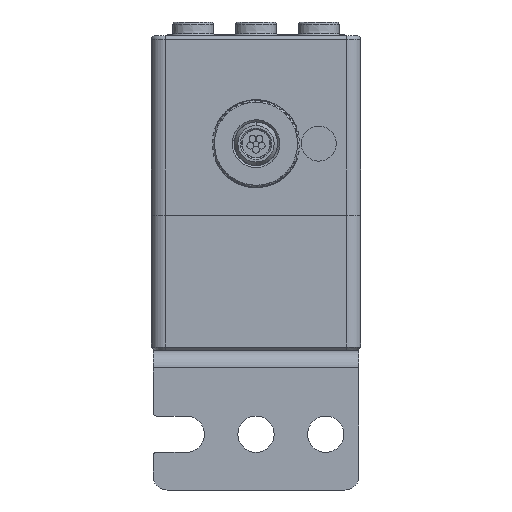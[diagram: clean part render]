
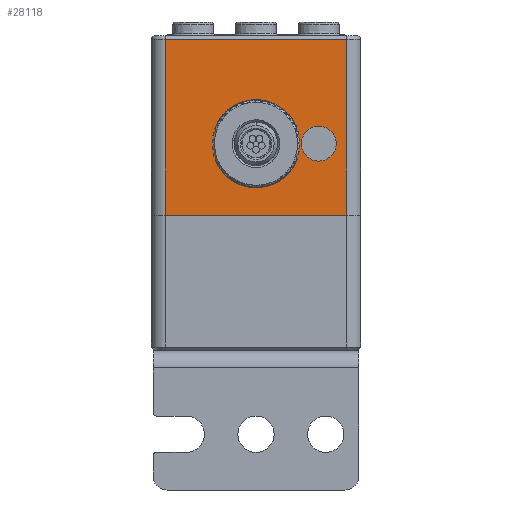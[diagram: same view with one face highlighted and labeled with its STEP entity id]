
A CAD part, front view. The second image highlights one B-rep face of the part: STEP entity #28118.
In plain terms, the highlighted planar face has unit normal (0, -1, 0).
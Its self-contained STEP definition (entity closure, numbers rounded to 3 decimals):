
#1414=DIRECTION('',(1.,0.,0.));
#1415=VECTOR('',#1414,26.);
#1416=CARTESIAN_POINT('',(-13.,-15.,4.5));
#1417=LINE('',#1416,#1415);
#1418=DIRECTION('',(0.,0.,-1.));
#1419=VECTOR('',#1418,25.2);
#1420=CARTESIAN_POINT('',(-13.,-15.,29.7));
#1421=LINE('',#1420,#1419);
#1422=DIRECTION('',(1.,0.,0.));
#1423=VECTOR('',#1422,26.);
#1424=CARTESIAN_POINT('',(-13.,-15.,29.7));
#1425=LINE('',#1424,#1423);
#1426=DIRECTION('',(0.,0.,-1.));
#1427=VECTOR('',#1426,25.2);
#1428=CARTESIAN_POINT('',(13.,-15.,29.7));
#1429=LINE('',#1428,#1427);
#1430=CARTESIAN_POINT('',(0.,-15.,14.75));
#1431=DIRECTION('',(0.,-1.,0.));
#1432=DIRECTION('',(-0.898,0.,-0.44));
#1433=AXIS2_PLACEMENT_3D('',#1430,#1431,#1432);
#1435=DIRECTION('',(-0.017,0.,-1.));
#1436=VECTOR('',#1435,2.35);
#1437=CARTESIAN_POINT('',(5.8,-15.,14.75));
#1438=LINE('',#1437,#1436);
#1439=DIRECTION('',(0.017,0.,-1.));
#1440=VECTOR('',#1439,2.35);
#1441=CARTESIAN_POINT('',(5.759,-15.,17.1));
#1442=LINE('',#1441,#1440);
#1443=CARTESIAN_POINT('',(0.,-15.,14.75));
#1444=DIRECTION('',(0.,-1.,0.));
#1445=DIRECTION('',(0.898,0.,0.44));
#1446=AXIS2_PLACEMENT_3D('',#1443,#1444,#1445);
#1448=DIRECTION('',(0.017,0.,1.));
#1449=VECTOR('',#1448,2.35);
#1450=CARTESIAN_POINT('',(-5.8,-15.,14.75));
#1451=LINE('',#1450,#1449);
#1452=DIRECTION('',(-0.017,0.,1.));
#1453=VECTOR('',#1452,2.35);
#1454=CARTESIAN_POINT('',(-5.759,-15.,12.4));
#1455=LINE('',#1454,#1453);
#1456=CARTESIAN_POINT('',(9.,-15.,14.75));
#1457=DIRECTION('',(0.,1.,0.));
#1458=DIRECTION('',(-1.,0.,0.));
#1459=AXIS2_PLACEMENT_3D('',#1456,#1457,#1458);
#1461=CARTESIAN_POINT('',(9.,-15.,14.75));
#1462=DIRECTION('',(0.,1.,0.));
#1463=DIRECTION('',(1.,0.,0.));
#1464=AXIS2_PLACEMENT_3D('',#1461,#1462,#1463);
#7093=CARTESIAN_POINT('',(-4.759,-15.,17.083));
#7094=DIRECTION('',(0.,1.,0.));
#7095=DIRECTION('',(-1.,0.,0.017));
#7096=AXIS2_PLACEMENT_3D('',#7093,#7094,#7095);
#7120=CARTESIAN_POINT('',(-4.759,-15.,12.417));
#7121=DIRECTION('',(0.,1.,0.));
#7122=DIRECTION('',(-0.898,0.,-0.44));
#7123=AXIS2_PLACEMENT_3D('',#7120,#7121,#7122);
#8238=CARTESIAN_POINT('',(4.759,-15.,17.083));
#8239=DIRECTION('',(0.,1.,0.));
#8240=DIRECTION('',(0.898,0.,0.44));
#8241=AXIS2_PLACEMENT_3D('',#8238,#8239,#8240);
#8263=CARTESIAN_POINT('',(4.759,-15.,12.417));
#8264=DIRECTION('',(0.,1.,0.));
#8265=DIRECTION('',(1.,0.,-0.017));
#8266=AXIS2_PLACEMENT_3D('',#8263,#8264,#8265);
#22908=CARTESIAN_POINT('',(-13.,-15.,4.5));
#22909=CARTESIAN_POINT('',(13.,-15.,4.5));
#22910=VERTEX_POINT('',#22908);
#22911=VERTEX_POINT('',#22909);
#22932=CARTESIAN_POINT('',(13.,-15.,29.7));
#22933=VERTEX_POINT('',#22932);
#22938=CARTESIAN_POINT('',(-13.,-15.,29.7));
#22939=VERTEX_POINT('',#22938);
#23028=CARTESIAN_POINT('',(6.643,-15.,14.75));
#23029=CARTESIAN_POINT('',(11.357,-15.,14.75));
#23030=VERTEX_POINT('',#23028);
#23031=VERTEX_POINT('',#23029);
#23240=CARTESIAN_POINT('',(5.8,-15.,14.75));
#23241=VERTEX_POINT('',#23240);
#23251=CARTESIAN_POINT('',(5.759,-15.,17.1));
#23252=VERTEX_POINT('',#23251);
#23253=CARTESIAN_POINT('',(5.759,-15.,12.4));
#23254=VERTEX_POINT('',#23253);
#23255=CARTESIAN_POINT('',(5.657,-15.,17.523));
#23256=VERTEX_POINT('',#23255);
#23257=CARTESIAN_POINT('',(5.657,-15.,11.977));
#23258=VERTEX_POINT('',#23257);
#23266=CARTESIAN_POINT('',(-5.657,-15.,17.523));
#23267=VERTEX_POINT('',#23266);
#23268=CARTESIAN_POINT('',(-5.657,-15.,11.977));
#23269=VERTEX_POINT('',#23268);
#23279=CARTESIAN_POINT('',(-5.759,-15.,12.4));
#23280=CARTESIAN_POINT('',(-5.8,-15.,14.75));
#23281=VERTEX_POINT('',#23279);
#23282=VERTEX_POINT('',#23280);
#23283=CARTESIAN_POINT('',(-5.759,-15.,17.1));
#23284=VERTEX_POINT('',#23283);
#28077=CARTESIAN_POINT('',(-15.,-15.,2.9));
#28078=DIRECTION('',(0.,-1.,0.));
#28079=DIRECTION('',(1.,0.,0.));
#28080=AXIS2_PLACEMENT_3D('',#28077,#28078,#28079);
#28081=PLANE('',#28080);
#28082=ORIENTED_EDGE('',*,*,#26762,.F.);
#28084=ORIENTED_EDGE('',*,*,#28083,.F.);
#28086=ORIENTED_EDGE('',*,*,#28085,.T.);
#28087=ORIENTED_EDGE('',*,*,#28069,.T.);
#28088=EDGE_LOOP('',(#28082,#28084,#28086,#28087));
#28089=FACE_OUTER_BOUND('',#28088,.F.);
#28091=ORIENTED_EDGE('',*,*,#28090,.T.);
#28093=ORIENTED_EDGE('',*,*,#28092,.F.);
#28095=ORIENTED_EDGE('',*,*,#28094,.F.);
#28097=ORIENTED_EDGE('',*,*,#28096,.F.);
#28099=ORIENTED_EDGE('',*,*,#28098,.F.);
#28101=ORIENTED_EDGE('',*,*,#28100,.T.);
#28103=ORIENTED_EDGE('',*,*,#28102,.F.);
#28105=ORIENTED_EDGE('',*,*,#28104,.F.);
#28107=ORIENTED_EDGE('',*,*,#28106,.F.);
#28109=ORIENTED_EDGE('',*,*,#28108,.F.);
#28110=EDGE_LOOP('',(#28091,#28093,#28095,#28097,#28099,#28101,#28103,#28105,
#28107,#28109));
#28111=FACE_BOUND('',#28110,.F.);
#28113=ORIENTED_EDGE('',*,*,#28112,.F.);
#28115=ORIENTED_EDGE('',*,*,#28114,.F.);
#28116=EDGE_LOOP('',(#28113,#28115));
#28117=FACE_BOUND('',#28116,.F.);
#28118=ADVANCED_FACE('',(#28089,#28111,#28117),#28081,.T.);
#1434=CIRCLE('',#1433,6.3);
#1447=CIRCLE('',#1446,6.3);
#1460=CIRCLE('',#1459,2.357);
#1465=CIRCLE('',#1464,2.357);
#7097=CIRCLE('',#7096,1.);
#7124=CIRCLE('',#7123,1.);
#8242=CIRCLE('',#8241,1.);
#8267=CIRCLE('',#8266,1.);
#26762=EDGE_CURVE('',#22910,#22911,#1417,.T.);
#28069=EDGE_CURVE('',#22933,#22911,#1429,.T.);
#28083=EDGE_CURVE('',#22939,#22910,#1421,.T.);
#28085=EDGE_CURVE('',#22939,#22933,#1425,.T.);
#28090=EDGE_CURVE('',#23269,#23258,#1434,.T.);
#28092=EDGE_CURVE('',#23254,#23258,#8267,.T.);
#28094=EDGE_CURVE('',#23241,#23254,#1438,.T.);
#28096=EDGE_CURVE('',#23252,#23241,#1442,.T.);
#28098=EDGE_CURVE('',#23256,#23252,#8242,.T.);
#28100=EDGE_CURVE('',#23256,#23267,#1447,.T.);
#28102=EDGE_CURVE('',#23284,#23267,#7097,.T.);
#28104=EDGE_CURVE('',#23282,#23284,#1451,.T.);
#28106=EDGE_CURVE('',#23281,#23282,#1455,.T.);
#28108=EDGE_CURVE('',#23269,#23281,#7124,.T.);
#28112=EDGE_CURVE('',#23030,#23031,#1460,.T.);
#28114=EDGE_CURVE('',#23031,#23030,#1465,.T.);
